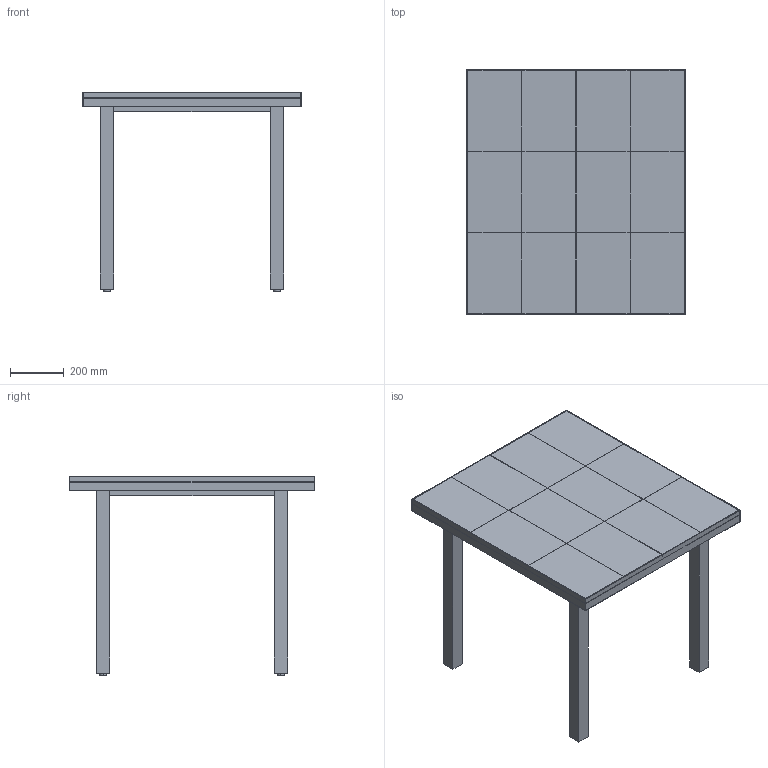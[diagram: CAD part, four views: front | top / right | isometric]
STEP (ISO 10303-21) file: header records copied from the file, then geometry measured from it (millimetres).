
FILE_DESCRIPTION(/* description */ (''),/* implementation_level */ '2;1');
FILE_NAME(/* name */ 'Flod Cafe Table_3D',/* time_stamp */ '2021-05-03T14:33:55+02:00',/* author */ (''),/* organization */ (''),/* preprocessor_version */ 'ST-DEVELOPER v16.5',/* originating_system */ '',/* authorisation */ '');
FILE_SCHEMA (('CONFIG_CONTROL_DESIGN'));
Length unit declared in the file: millimetre
Products named in the file (1): Document
Bounding box: 811 x 910 x 740 mm (x, y, z)
Volume: 30401973.7 mm3; surface area: 5144975.3 mm2
Topology: 65 solids, 65 shells, 670 faces, 1511 edges, 831 vertices
Faces by surface type: cylinder 232, bspline 224, plane 214
Entity records: 17073 total; most frequent: CARTESIAN_POINT 7604, ORIENTED_EDGE 2680, EDGE_CURVE 1340, B_SPLINE_CURVE_WITH_KNOTS 871, VERTEX_POINT 828, EDGE_LOOP 758, ADVANCED_FACE 670, FACE_OUTER_BOUND 670
